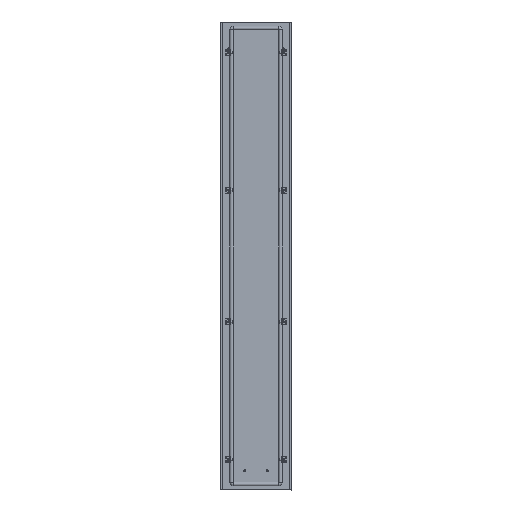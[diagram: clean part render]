
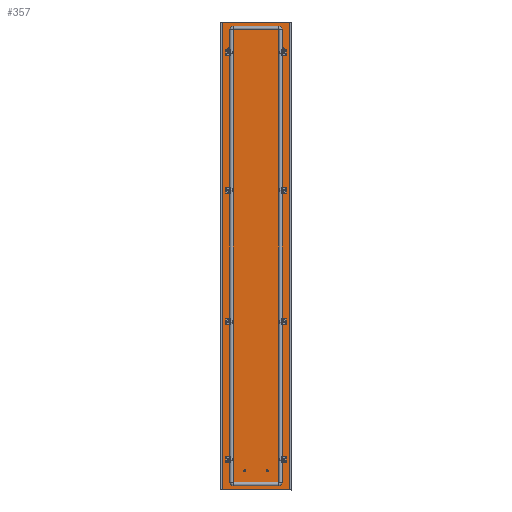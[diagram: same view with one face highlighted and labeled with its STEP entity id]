
A CAD part, top view. The second image highlights one B-rep face of the part: STEP entity #357.
In plain terms, the highlighted planar face has unit normal (0, 0, 1).
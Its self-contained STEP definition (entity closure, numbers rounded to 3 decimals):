
#357 = ADVANCED_FACE('',(#358,#456,#467,#478,#498,#518,#529,#540,#560),
  #580,.F.);
#358 = FACE_BOUND('',#359,.T.);
#359 = EDGE_LOOP('',(#360,#370,#378,#386,#394,#402,#410,#418,#426,#434,
    #442,#450));
#360 = ORIENTED_EDGE('',*,*,#361,.F.);
#361 = EDGE_CURVE('',#362,#364,#366,.T.);
#362 = VERTEX_POINT('',#363);
#363 = CARTESIAN_POINT('',(-145.5,977.5,0.));
#364 = VERTEX_POINT('',#365);
#365 = CARTESIAN_POINT('',(-145.3,977.5,0.));
#366 = LINE('',#367,#368);
#367 = CARTESIAN_POINT('',(0.,977.5,0.)
  );
#368 = VECTOR('',#369,1.);
#369 = DIRECTION('',(1.,0.,0.));
#370 = ORIENTED_EDGE('',*,*,#371,.T.);
#371 = EDGE_CURVE('',#362,#372,#374,.T.);
#372 = VERTEX_POINT('',#373);
#373 = CARTESIAN_POINT('',(-145.5,-977.5,
    0.));
#374 = LINE('',#375,#376);
#375 = CARTESIAN_POINT('',(-145.5,0.,
    0.));
#376 = VECTOR('',#377,1.);
#377 = DIRECTION('',(0.,-1.,0.));
#378 = ORIENTED_EDGE('',*,*,#379,.T.);
#379 = EDGE_CURVE('',#372,#380,#382,.T.);
#380 = VERTEX_POINT('',#381);
#381 = CARTESIAN_POINT('',(-145.3,-977.5,
    0.));
#382 = LINE('',#383,#384);
#383 = CARTESIAN_POINT('',(0.,-977.5,
    0.));
#384 = VECTOR('',#385,1.);
#385 = DIRECTION('',(1.,0.,0.));
#386 = ORIENTED_EDGE('',*,*,#387,.F.);
#387 = EDGE_CURVE('',#388,#380,#390,.T.);
#388 = VERTEX_POINT('',#389);
#389 = CARTESIAN_POINT('',(-145.3,-976.,
    0.));
#390 = LINE('',#391,#392);
#391 = CARTESIAN_POINT('',(-145.3,0.,
    0.));
#392 = VECTOR('',#393,1.);
#393 = DIRECTION('',(0.,-1.,0.));
#394 = ORIENTED_EDGE('',*,*,#395,.T.);
#395 = EDGE_CURVE('',#388,#396,#398,.T.);
#396 = VERTEX_POINT('',#397);
#397 = CARTESIAN_POINT('',(145.3,-976.,
    0.));
#398 = LINE('',#399,#400);
#399 = CARTESIAN_POINT('',(0.,-976.,
    0.));
#400 = VECTOR('',#401,1.);
#401 = DIRECTION('',(1.,0.,0.));
#402 = ORIENTED_EDGE('',*,*,#403,.T.);
#403 = EDGE_CURVE('',#396,#404,#406,.T.);
#404 = VERTEX_POINT('',#405);
#405 = CARTESIAN_POINT('',(145.3,-977.5,0.));
#406 = LINE('',#407,#408);
#407 = CARTESIAN_POINT('',(145.3,-976.,
    0.));
#408 = VECTOR('',#409,1.);
#409 = DIRECTION('',(0.,-1.,0.));
#410 = ORIENTED_EDGE('',*,*,#411,.F.);
#411 = EDGE_CURVE('',#412,#404,#414,.T.);
#412 = VERTEX_POINT('',#413);
#413 = CARTESIAN_POINT('',(145.5,-977.5,0.));
#414 = LINE('',#415,#416);
#415 = CARTESIAN_POINT('',(0.,-977.5,0.)
  );
#416 = VECTOR('',#417,1.);
#417 = DIRECTION('',(-1.,0.,0.));
#418 = ORIENTED_EDGE('',*,*,#419,.T.);
#419 = EDGE_CURVE('',#412,#420,#422,.T.);
#420 = VERTEX_POINT('',#421);
#421 = CARTESIAN_POINT('',(145.5,977.5,0.));
#422 = LINE('',#423,#424);
#423 = CARTESIAN_POINT('',(145.5,0.,0.)
  );
#424 = VECTOR('',#425,1.);
#425 = DIRECTION('',(0.,1.,0.));
#426 = ORIENTED_EDGE('',*,*,#427,.T.);
#427 = EDGE_CURVE('',#420,#428,#430,.T.);
#428 = VERTEX_POINT('',#429);
#429 = CARTESIAN_POINT('',(145.3,977.5,0.));
#430 = LINE('',#431,#432);
#431 = CARTESIAN_POINT('',(0.,977.5,0.)
  );
#432 = VECTOR('',#433,1.);
#433 = DIRECTION('',(-1.,0.,0.));
#434 = ORIENTED_EDGE('',*,*,#435,.F.);
#435 = EDGE_CURVE('',#436,#428,#438,.T.);
#436 = VERTEX_POINT('',#437);
#437 = CARTESIAN_POINT('',(145.3,976.,0.));
#438 = LINE('',#439,#440);
#439 = CARTESIAN_POINT('',(145.3,0.,
    0.));
#440 = VECTOR('',#441,1.);
#441 = DIRECTION('',(0.,1.,0.));
#442 = ORIENTED_EDGE('',*,*,#443,.T.);
#443 = EDGE_CURVE('',#436,#444,#446,.T.);
#444 = VERTEX_POINT('',#445);
#445 = CARTESIAN_POINT('',(-145.3,976.,0.));
#446 = LINE('',#447,#448);
#447 = CARTESIAN_POINT('',(0.,976.,0.)
  );
#448 = VECTOR('',#449,1.);
#449 = DIRECTION('',(-1.,0.,0.));
#450 = ORIENTED_EDGE('',*,*,#451,.T.);
#451 = EDGE_CURVE('',#444,#364,#452,.T.);
#452 = LINE('',#453,#454);
#453 = CARTESIAN_POINT('',(-145.3,976.,0.));
#454 = VECTOR('',#455,1.);
#455 = DIRECTION('',(0.,1.,0.));
#456 = FACE_BOUND('',#457,.T.);
#457 = EDGE_LOOP('',(#458));
#458 = ORIENTED_EDGE('',*,*,#459,.T.);
#459 = EDGE_CURVE('',#460,#460,#462,.T.);
#460 = VERTEX_POINT('',#461);
#461 = CARTESIAN_POINT('',(-114.5,-270.25,
    0.));
#462 = CIRCLE('',#463,4.75);
#463 = AXIS2_PLACEMENT_3D('',#464,#465,#466);
#464 = CARTESIAN_POINT('',(-114.5,-275.,
    0.));
#465 = DIRECTION('',(0.,0.,-1.));
#466 = DIRECTION('',(0.,1.,0.));
#467 = FACE_BOUND('',#468,.T.);
#468 = EDGE_LOOP('',(#469));
#469 = ORIENTED_EDGE('',*,*,#470,.T.);
#470 = EDGE_CURVE('',#471,#471,#473,.T.);
#471 = VERTEX_POINT('',#472);
#472 = CARTESIAN_POINT('',(114.5,-279.75,
    0.));
#473 = CIRCLE('',#474,4.75);
#474 = AXIS2_PLACEMENT_3D('',#475,#476,#477);
#475 = CARTESIAN_POINT('',(114.5,-275.,
    0.));
#476 = DIRECTION('',(-0.,0.,-1.));
#477 = DIRECTION('',(0.,-1.,0.));
#478 = FACE_BOUND('',#479,.T.);
#479 = EDGE_LOOP('',(#480,#491));
#480 = ORIENTED_EDGE('',*,*,#481,.F.);
#481 = EDGE_CURVE('',#482,#484,#486,.T.);
#482 = VERTEX_POINT('',#483);
#483 = CARTESIAN_POINT('',(-114.5,854.75,
    0.));
#484 = VERTEX_POINT('',#485);
#485 = CARTESIAN_POINT('',(-114.5,845.25,
    0.));
#486 = CIRCLE('',#487,4.75);
#487 = AXIS2_PLACEMENT_3D('',#488,#489,#490);
#488 = CARTESIAN_POINT('',(-114.5,850.,
    0.));
#489 = DIRECTION('',(0.,0.,1.));
#490 = DIRECTION('',(0.,1.,0.));
#491 = ORIENTED_EDGE('',*,*,#492,.F.);
#492 = EDGE_CURVE('',#484,#482,#493,.T.);
#493 = CIRCLE('',#494,4.75);
#494 = AXIS2_PLACEMENT_3D('',#495,#496,#497);
#495 = CARTESIAN_POINT('',(-114.5,850.,
    0.));
#496 = DIRECTION('',(0.,0.,1.));
#497 = DIRECTION('',(0.,1.,0.));
#498 = FACE_BOUND('',#499,.T.);
#499 = EDGE_LOOP('',(#500,#511));
#500 = ORIENTED_EDGE('',*,*,#501,.F.);
#501 = EDGE_CURVE('',#502,#504,#506,.T.);
#502 = VERTEX_POINT('',#503);
#503 = CARTESIAN_POINT('',(114.5,845.25,
    0.));
#504 = VERTEX_POINT('',#505);
#505 = CARTESIAN_POINT('',(114.5,854.75,
    0.));
#506 = CIRCLE('',#507,4.75);
#507 = AXIS2_PLACEMENT_3D('',#508,#509,#510);
#508 = CARTESIAN_POINT('',(114.5,850.,
    0.));
#509 = DIRECTION('',(0.,0.,1.));
#510 = DIRECTION('',(0.,-1.,0.));
#511 = ORIENTED_EDGE('',*,*,#512,.F.);
#512 = EDGE_CURVE('',#504,#502,#513,.T.);
#513 = CIRCLE('',#514,4.75);
#514 = AXIS2_PLACEMENT_3D('',#515,#516,#517);
#515 = CARTESIAN_POINT('',(114.5,850.,
    0.));
#516 = DIRECTION('',(0.,0.,1.));
#517 = DIRECTION('',(0.,-1.,0.));
#518 = FACE_BOUND('',#519,.T.);
#519 = EDGE_LOOP('',(#520));
#520 = ORIENTED_EDGE('',*,*,#521,.T.);
#521 = EDGE_CURVE('',#522,#522,#524,.T.);
#522 = VERTEX_POINT('',#523);
#523 = CARTESIAN_POINT('',(-114.5,-845.25,
    0.));
#524 = CIRCLE('',#525,4.75);
#525 = AXIS2_PLACEMENT_3D('',#526,#527,#528);
#526 = CARTESIAN_POINT('',(-114.5,-850.,
    0.));
#527 = DIRECTION('',(0.,0.,-1.));
#528 = DIRECTION('',(0.,1.,0.));
#529 = FACE_BOUND('',#530,.T.);
#530 = EDGE_LOOP('',(#531));
#531 = ORIENTED_EDGE('',*,*,#532,.T.);
#532 = EDGE_CURVE('',#533,#533,#535,.T.);
#533 = VERTEX_POINT('',#534);
#534 = CARTESIAN_POINT('',(114.5,-854.75,
    0.));
#535 = CIRCLE('',#536,4.75);
#536 = AXIS2_PLACEMENT_3D('',#537,#538,#539);
#537 = CARTESIAN_POINT('',(114.5,-850.,
    0.));
#538 = DIRECTION('',(-0.,0.,-1.));
#539 = DIRECTION('',(0.,-1.,0.));
#540 = FACE_BOUND('',#541,.T.);
#541 = EDGE_LOOP('',(#542,#553));
#542 = ORIENTED_EDGE('',*,*,#543,.F.);
#543 = EDGE_CURVE('',#544,#546,#548,.T.);
#544 = VERTEX_POINT('',#545);
#545 = CARTESIAN_POINT('',(114.5,270.25,
    0.));
#546 = VERTEX_POINT('',#547);
#547 = CARTESIAN_POINT('',(114.5,279.75,
    0.));
#548 = CIRCLE('',#549,4.75);
#549 = AXIS2_PLACEMENT_3D('',#550,#551,#552);
#550 = CARTESIAN_POINT('',(114.5,275.,
    0.));
#551 = DIRECTION('',(0.,0.,1.));
#552 = DIRECTION('',(0.,-1.,0.));
#553 = ORIENTED_EDGE('',*,*,#554,.F.);
#554 = EDGE_CURVE('',#546,#544,#555,.T.);
#555 = CIRCLE('',#556,4.75);
#556 = AXIS2_PLACEMENT_3D('',#557,#558,#559);
#557 = CARTESIAN_POINT('',(114.5,275.,
    0.));
#558 = DIRECTION('',(0.,0.,1.));
#559 = DIRECTION('',(0.,-1.,0.));
#560 = FACE_BOUND('',#561,.T.);
#561 = EDGE_LOOP('',(#562,#573));
#562 = ORIENTED_EDGE('',*,*,#563,.F.);
#563 = EDGE_CURVE('',#564,#566,#568,.T.);
#564 = VERTEX_POINT('',#565);
#565 = CARTESIAN_POINT('',(-114.5,279.75,
    0.));
#566 = VERTEX_POINT('',#567);
#567 = CARTESIAN_POINT('',(-114.5,270.25,
    0.));
#568 = CIRCLE('',#569,4.75);
#569 = AXIS2_PLACEMENT_3D('',#570,#571,#572);
#570 = CARTESIAN_POINT('',(-114.5,275.,
    0.));
#571 = DIRECTION('',(0.,0.,1.));
#572 = DIRECTION('',(0.,1.,0.));
#573 = ORIENTED_EDGE('',*,*,#574,.F.);
#574 = EDGE_CURVE('',#566,#564,#575,.T.);
#575 = CIRCLE('',#576,4.75);
#576 = AXIS2_PLACEMENT_3D('',#577,#578,#579);
#577 = CARTESIAN_POINT('',(-114.5,275.,
    0.));
#578 = DIRECTION('',(0.,0.,1.));
#579 = DIRECTION('',(0.,1.,0.));
#580 = PLANE('',#581);
#581 = AXIS2_PLACEMENT_3D('',#582,#583,#584);
#582 = CARTESIAN_POINT('',(0.,0.,
    0.));
#583 = DIRECTION('',(0.,0.,-1.));
#584 = DIRECTION('',(-1.,0.,0.));
